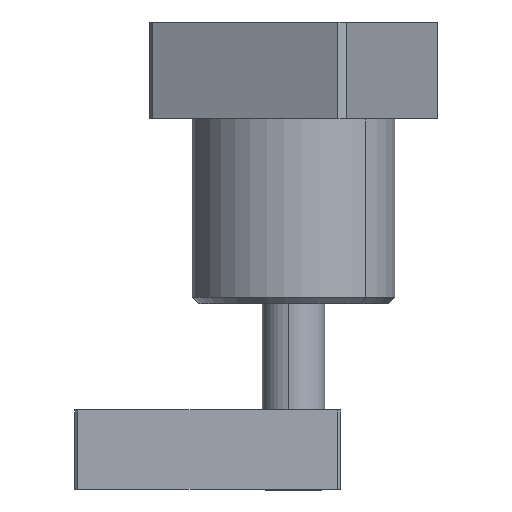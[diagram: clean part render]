
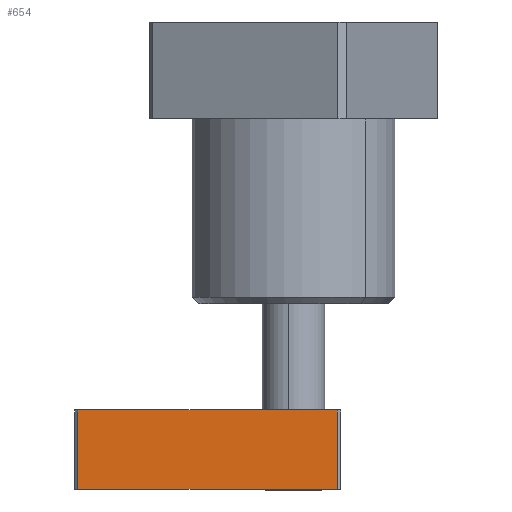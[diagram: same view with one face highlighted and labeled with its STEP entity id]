
A CAD part, front view. The second image highlights one B-rep face of the part: STEP entity #654.
In plain terms, the highlighted planar face has unit normal (0, -1, 0).
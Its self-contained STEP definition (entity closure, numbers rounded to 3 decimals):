
#654 = ADVANCED_FACE ( 'NONE', ( #2052 ), #2051, .F. ) ;
#655 = EDGE_LOOP ( 'NONE', ( #656, #711, #714, #717 ) ) ;
#656 = ORIENTED_EDGE ( 'NONE', *, *, #708, .T. ) ;
#708 = EDGE_CURVE ( 'NONE', #709, #710, #2140, .T. ) ;
#709 = VERTEX_POINT ( 'NONE', #2136 ) ;
#710 = VERTEX_POINT ( 'NONE', #2135 ) ;
#711 = ORIENTED_EDGE ( 'NONE', *, *, #712, .T. ) ;
#712 = EDGE_CURVE ( 'NONE', #710, #713, #2134, .T. ) ;
#713 = VERTEX_POINT ( 'NONE', #2130 ) ;
#714 = ORIENTED_EDGE ( 'NONE', *, *, #715, .F. ) ;
#715 = EDGE_CURVE ( 'NONE', #716, #713, #2129, .T. ) ;
#716 = VERTEX_POINT ( 'NONE', #2125 ) ;
#717 = ORIENTED_EDGE ( 'NONE', *, *, #718, .T. ) ;
#718 = EDGE_CURVE ( 'NONE', #716, #709, #2124, .T. ) ;
#2047 = DIRECTION ( 'NONE',  ( 0., 0., 1. ) ) ;
#2048 = DIRECTION ( 'NONE',  ( 0., 1., 0. ) ) ;
#2049 = CARTESIAN_POINT ( 'NONE',  ( 0., 0., 25.4 ) ) ;
#2050 = AXIS2_PLACEMENT_3D ( 'NONE', #2049, #2048, #2047 ) ;
#2051 = PLANE ( 'NONE',  #2050 ) ;
#2052 = FACE_OUTER_BOUND ( 'NONE', #655, .T. ) ;
#2122 = DIRECTION ( 'NONE',  ( 0., 0., -1. ) ) ;
#2123 = CARTESIAN_POINT ( 'NONE',  ( 1., 0., 25.4 ) ) ;
#2124 = LINE ( 'NONE', #2123, #2186 ) ;
#2125 = CARTESIAN_POINT ( 'NONE',  ( 1., 0., 25.4 ) ) ;
#2126 = DIRECTION ( 'NONE',  ( 1., 0., 0. ) ) ;
#2127 = VECTOR ( 'NONE', #2126, 1000. ) ;
#2128 = CARTESIAN_POINT ( 'NONE',  ( 0., 0., 25.4 ) ) ;
#2129 = LINE ( 'NONE', #2128, #2127 ) ;
#2130 = CARTESIAN_POINT ( 'NONE',  ( 84., 0., 25.4 ) ) ;
#2131 = DIRECTION ( 'NONE',  ( 0., 0., 1. ) ) ;
#2132 = VECTOR ( 'NONE', #2131, 1000. ) ;
#2133 = CARTESIAN_POINT ( 'NONE',  ( 84., 0., 25.4 ) ) ;
#2134 = LINE ( 'NONE', #2133, #2132 ) ;
#2135 = CARTESIAN_POINT ( 'NONE',  ( 84., 0., 0. ) ) ;
#2136 = CARTESIAN_POINT ( 'NONE',  ( 1., 0., 0. ) ) ;
#2137 = DIRECTION ( 'NONE',  ( 1., 0., 0. ) ) ;
#2138 = VECTOR ( 'NONE', #2137, 1000. ) ;
#2139 = CARTESIAN_POINT ( 'NONE',  ( 0., 0., 0. ) ) ;
#2140 = LINE ( 'NONE', #2139, #2138 ) ;
#2186 = VECTOR ( 'NONE', #2122, 1000. ) ;
